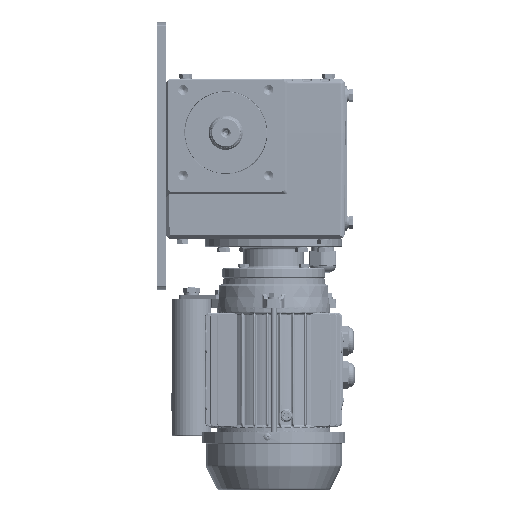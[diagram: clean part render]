
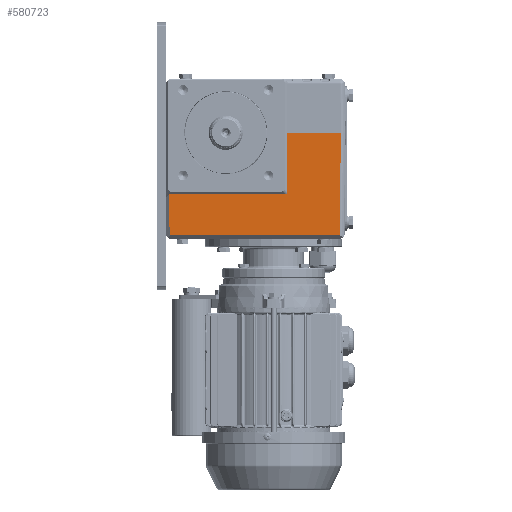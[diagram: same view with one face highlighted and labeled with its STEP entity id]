
A CAD part, left-side view. The second image highlights one B-rep face of the part: STEP entity #580723.
In plain terms, the highlighted planar face has unit normal (-1, 0, -0.009).
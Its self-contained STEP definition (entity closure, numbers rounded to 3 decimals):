
#7618 = VECTOR ( 'NONE', #183616, 1000. ) ;
#7949 = CARTESIAN_POINT ( 'NONE',  ( -93., -100.756, 0. ) ) ;
#35649 = CARTESIAN_POINT ( 'NONE',  ( -93., 53., 0. ) ) ;
#50152 = LINE ( 'NONE', #100472, #7618 ) ;
#60084 = VERTEX_POINT ( 'NONE', #350958 ) ;
#60958 = LINE ( 'NONE', #422685, #145393 ) ;
#72381 = CARTESIAN_POINT ( 'NONE',  ( -93., -100.757, 0. ) ) ;
#72914 = VERTEX_POINT ( 'NONE', #200249 ) ;
#74580 = CARTESIAN_POINT ( 'NONE',  ( -92.529, 49.529, -53.971 ) ) ;
#88334 = CARTESIAN_POINT ( 'NONE',  ( -93., 53., 0. ) ) ;
#100472 = CARTESIAN_POINT ( 'NONE',  ( -92.529, 53., -53.971 ) ) ;
#116787 = VECTOR ( 'NONE', #546123, 1000. ) ;
#120006 = VERTEX_POINT ( 'NONE', #74580 ) ;
#129906 = PLANE ( 'NONE',  #573315 ) ;
#130115 = ORIENTED_EDGE ( 'NONE', *, *, #399076, .F. ) ;
#137770 = ORIENTED_EDGE ( 'NONE', *, *, #383160, .F. ) ;
#145393 = VECTOR ( 'NONE', #197409, 1000. ) ;
#145581 = LINE ( 'NONE', #507403, #116787 ) ;
#161972 = EDGE_LOOP ( 'NONE', ( #376021, #285727, #349534, #412387, #130115, #403841, #445594, #137770 ) ) ;
#178757 = EDGE_CURVE ( 'NONE', #370770, #564005, #308600, .T. ) ;
#183616 = DIRECTION ( 'NONE',  ( 0., -1., 0. ) ) ;
#196945 = CARTESIAN_POINT ( 'NONE',  ( -92.548, -53.952, -51.831 ) ) ;
#197409 = DIRECTION ( 'NONE',  ( -0.009, 0.009, 1. ) ) ;
#197746 = VERTEX_POINT ( 'NONE', #196945 ) ;
#200249 = CARTESIAN_POINT ( 'NONE',  ( -92.529, -51.85, -53.971 ) ) ;
#216436 = LINE ( 'NONE', #450413, #459131 ) ;
#221739 = DIRECTION ( 'NONE',  ( 0., -1., 0. ) ) ;
#226274 = CARTESIAN_POINT ( 'NONE',  ( -92.536, -53.964, -53.188 ) ) ;
#232063 = CARTESIAN_POINT ( 'NONE',  ( -92.529, -51.85, -53.971 ) ) ;
#249319 = EDGE_CURVE ( 'NONE', #60084, #252010, #310724, .T. ) ;
#252010 = VERTEX_POINT ( 'NONE', #258879 ) ;
#257928 = EDGE_CURVE ( 'NONE', #252010, #564005, #216436, .T. ) ;
#258879 = CARTESIAN_POINT ( 'NONE',  ( -92.215, -99.972, -90. ) ) ;
#261218 = DIRECTION ( 'NONE',  ( 0., -1., 0. ) ) ;
#265887 = VECTOR ( 'NONE', #261218, 1000. ) ;
#267583 = VECTOR ( 'NONE', #444125, 1000. ) ;
#272152 = LINE ( 'NONE', #452884, #267583 ) ;
#278103 = DIRECTION ( 'NONE',  ( -1., 0., -0.009 ) ) ;
#285727 = ORIENTED_EDGE ( 'NONE', *, *, #249319, .T. ) ;
#308600 = LINE ( 'NONE', #35649, #265887 ) ;
#310724 = LINE ( 'NONE', #491519, #389362 ) ;
#349534 = ORIENTED_EDGE ( 'NONE', *, *, #257928, .T. ) ;
#350958 = CARTESIAN_POINT ( 'NONE',  ( -92.215, 49.215, -90. ) ) ;
#361501 = DIRECTION ( 'NONE',  ( -0.009, -0.009, 1. ) ) ;
#370770 = VERTEX_POINT ( 'NONE', #7949 ) ;
#376021 = ORIENTED_EDGE ( 'NONE', *, *, #564619, .T. ) ;
#383160 = EDGE_CURVE ( 'NONE', #120006, #72914, #50152, .T. ) ;
#389362 = VECTOR ( 'NONE', #221739, 1000. ) ;
#399076 = EDGE_CURVE ( 'NONE', #399154, #370770, #272152, .T. ) ;
#399154 = VERTEX_POINT ( 'NONE', #449970 ) ;
#403841 = ORIENTED_EDGE ( 'NONE', *, *, #521954, .F. ) ;
#412387 = ORIENTED_EDGE ( 'NONE', *, *, #178757, .F. ) ;
#422685 = CARTESIAN_POINT ( 'NONE',  ( -93.008, -53.492, 0.929 ) ) ;
#436700 = EDGE_CURVE ( 'NONE', #197746, #72914, #445535, .T. ) ;
#444125 = DIRECTION ( 'NONE',  ( 0., -1., 0. ) ) ;
#445535 =( BOUNDED_CURVE ( )  B_SPLINE_CURVE ( 3, ( #498953, #226274, #493068, #232063 ),
 .UNSPECIFIED., .F., .T. ) 
 B_SPLINE_CURVE_WITH_KNOTS ( ( 4, 4 ),
 ( 2.61, 3.658 ),
 .UNSPECIFIED. ) 
 CURVE ( )  GEOMETRIC_REPRESENTATION_ITEM ( )  RATIONAL_B_SPLINE_CURVE ( ( 1., 0.911, 0.911, 1. ) ) 
 REPRESENTATION_ITEM ( '' )  );
#445594 = ORIENTED_EDGE ( 'NONE', *, *, #436700, .T. ) ;
#449970 = CARTESIAN_POINT ( 'NONE',  ( -93., -53.5, 0. ) ) ;
#450413 = CARTESIAN_POINT ( 'NONE',  ( -93., -100.757, 0.011 ) ) ;
#452884 = CARTESIAN_POINT ( 'NONE',  ( -93., 53., 0. ) ) ;
#459131 = VECTOR ( 'NONE', #361501, 1000. ) ;
#491519 = CARTESIAN_POINT ( 'NONE',  ( -92.215, 53., -90. ) ) ;
#493068 = CARTESIAN_POINT ( 'NONE',  ( -92.529, -53.195, -53.971 ) ) ;
#498953 = CARTESIAN_POINT ( 'NONE',  ( -92.548, -53.952, -51.831 ) ) ;
#503436 = DIRECTION ( 'NONE',  ( -0.009, 0., 1. ) ) ;
#507403 = CARTESIAN_POINT ( 'NONE',  ( -92.585, 49.585, -47.5 ) ) ;
#521954 = EDGE_CURVE ( 'NONE', #197746, #399154, #60958, .T. ) ;
#546123 = DIRECTION ( 'NONE',  ( 0.009, -0.009, -1. ) ) ;
#564005 = VERTEX_POINT ( 'NONE', #72381 ) ;
#564619 = EDGE_CURVE ( 'NONE', #120006, #60084, #145581, .T. ) ;
#573315 = AXIS2_PLACEMENT_3D ( 'NONE', #88334, #278103, #503436 ) ;
#580723 = ADVANCED_FACE ( 'NONE', ( #583713 ), #129906, .T. ) ;
#583713 = FACE_OUTER_BOUND ( 'NONE', #161972, .T. ) ;
